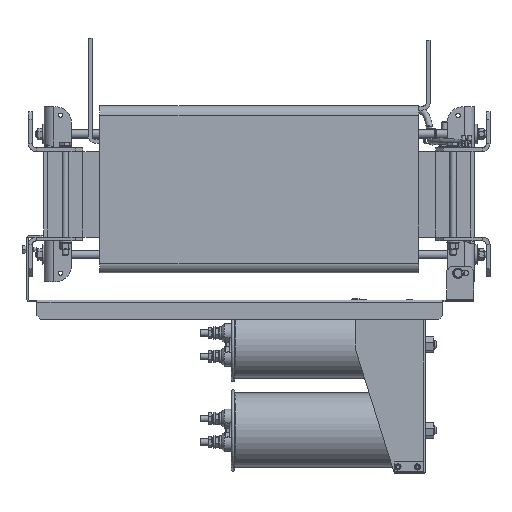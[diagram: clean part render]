
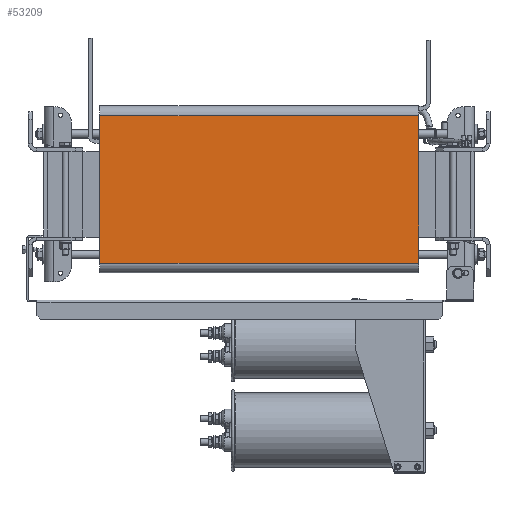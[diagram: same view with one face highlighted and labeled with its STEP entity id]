
A CAD part, left-side view. The second image highlights one B-rep face of the part: STEP entity #53209.
In plain terms, the highlighted planar face has unit normal (-1, 0, 0).
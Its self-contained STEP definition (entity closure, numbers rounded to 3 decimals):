
#2653=PLANE('',#57505);
#5068=FACE_OUTER_BOUND('',#8137,.T.);
#8137=EDGE_LOOP('',(#41821,#41822,#41823,#41824));
#12383=LINE('',#86189,#16823);
#12384=LINE('',#86195,#16824);
#12385=LINE('',#86196,#16825);
#12386=LINE('',#86197,#16826);
#16823=VECTOR('',#68360,10.);
#16824=VECTOR('',#68367,10.);
#16825=VECTOR('',#68368,10.);
#16826=VECTOR('',#68369,10.);
#23845=VERTEX_POINT('',#86187);
#23846=VERTEX_POINT('',#86188);
#23847=VERTEX_POINT('',#86193);
#23848=VERTEX_POINT('',#86194);
#30342=EDGE_CURVE('',#23845,#23846,#12383,.T.);
#30345=EDGE_CURVE('',#23847,#23848,#12384,.T.);
#30346=EDGE_CURVE('',#23845,#23847,#12385,.T.);
#30347=EDGE_CURVE('',#23848,#23846,#12386,.T.);
#41821=ORIENTED_EDGE('',*,*,#30345,.F.);
#41822=ORIENTED_EDGE('',*,*,#30346,.F.);
#41823=ORIENTED_EDGE('',*,*,#30342,.T.);
#41824=ORIENTED_EDGE('',*,*,#30347,.F.);
#53209=ADVANCED_FACE('',(#5068),#2653,.T.);
#57505=AXIS2_PLACEMENT_3D('',#86192,#68365,#68366);
#68360=DIRECTION('',(0.,-1.,0.));
#68365=DIRECTION('center_axis',(-1.,0.,0.));
#68366=DIRECTION('ref_axis',(0.,0.,1.));
#68367=DIRECTION('',(0.,-1.,0.));
#68368=DIRECTION('',(0.,0.,1.));
#68369=DIRECTION('',(0.,0.,-1.));
#86187=CARTESIAN_POINT('',(-203.732,205.,-88.486));
#86188=CARTESIAN_POINT('',(-203.732,-205.,-88.486));
#86189=CARTESIAN_POINT('',(-203.732,0.,-88.486));
#86192=CARTESIAN_POINT('Origin',(-203.732,0.,-88.486));
#86193=CARTESIAN_POINT('',(-203.732,205.,100.986));
#86194=CARTESIAN_POINT('',(-203.732,-205.,100.986));
#86195=CARTESIAN_POINT('',(-203.732,0.,100.986));
#86196=CARTESIAN_POINT('',(-203.732,205.,100.986));
#86197=CARTESIAN_POINT('',(-203.732,-205.,100.986));
